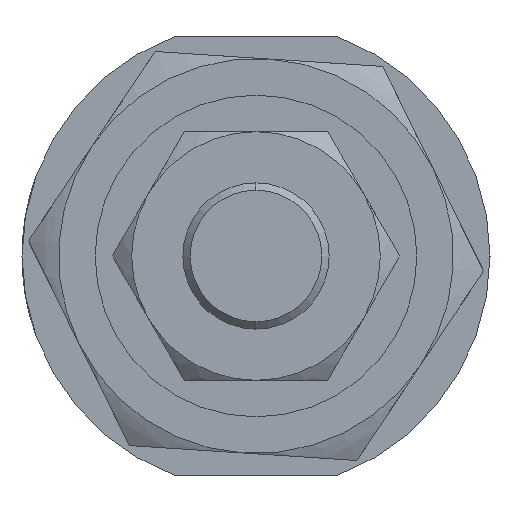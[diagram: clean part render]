
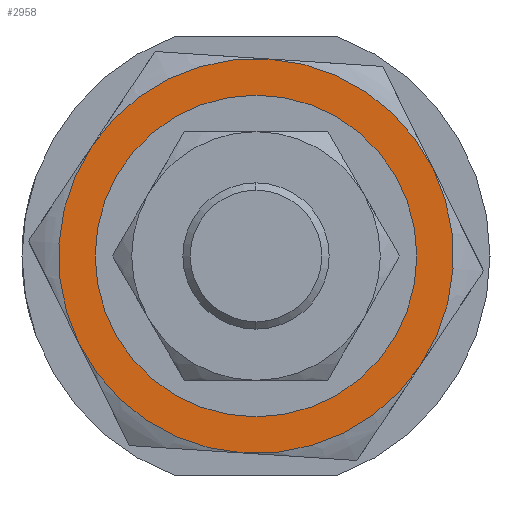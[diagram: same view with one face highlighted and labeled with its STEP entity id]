
A CAD part, left-side view. The second image highlights one B-rep face of the part: STEP entity #2958.
In plain terms, the highlighted planar face has unit normal (-1, 0, 0) as drawn and (0, 0, -1) by its records, which use the part's own axes.
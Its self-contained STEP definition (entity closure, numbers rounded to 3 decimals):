
#4 = ORIENTED_EDGE ( 'NONE', *, *, #958, .F. ) ;
#82 = DIRECTION ( 'NONE',  ( 0., 0., 1. ) ) ;
#94 = DIRECTION ( 'NONE',  ( 1., 0., 0. ) ) ;
#103 = DIRECTION ( 'NONE',  ( 1., 0., 0. ) ) ;
#150 = EDGE_CURVE ( 'NONE', #1253, #1528, #909, .T. ) ;
#248 = EDGE_CURVE ( 'NONE', #1444, #1003, #410, .T. ) ;
#297 = CARTESIAN_POINT ( 'NONE',  ( 0., 0., -5. ) ) ;
#349 = DIRECTION ( 'NONE',  ( 0., 0., 1. ) ) ;
#382 = VERTEX_POINT ( 'NONE', #1313 ) ;
#410 = CIRCLE ( 'NONE', #2214, 13.5 ) ;
#473 = VERTEX_POINT ( 'NONE', #1832 ) ;
#537 = CARTESIAN_POINT ( 'NONE',  ( 0., 0., -5. ) ) ;
#564 = AXIS2_PLACEMENT_3D ( 'NONE', #1484, #2414, #94 ) ;
#666 = ORIENTED_EDGE ( 'NONE', *, *, #2832, .F. ) ;
#751 = DIRECTION ( 'NONE',  ( 1., 0., 0. ) ) ;
#760 = DIRECTION ( 'NONE',  ( 1., 0., 0. ) ) ;
#798 = AXIS2_PLACEMENT_3D ( 'NONE', #2604, #2809, #751 ) ;
#866 = ORIENTED_EDGE ( 'NONE', *, *, #2842, .F. ) ;
#897 = AXIS2_PLACEMENT_3D ( 'NONE', #297, #82, #1006 ) ;
#909 = CIRCLE ( 'NONE', #798, 10. ) ;
#958 = EDGE_CURVE ( 'NONE', #2169, #2847, #1726, .T. ) ;
#1000 = CARTESIAN_POINT ( 'NONE',  ( 0., 0., -5. ) ) ;
#1003 = VERTEX_POINT ( 'NONE', #2172 ) ;
#1006 = DIRECTION ( 'NONE',  ( 1., 0., 0. ) ) ;
#1018 = EDGE_CURVE ( 'NONE', #1003, #382, #2227, .T. ) ;
#1046 = CARTESIAN_POINT ( 'NONE',  ( 0., 0., -5. ) ) ;
#1049 = PLANE ( 'NONE',  #1504 ) ;
#1143 = ORIENTED_EDGE ( 'NONE', *, *, #1018, .F. ) ;
#1159 = CIRCLE ( 'NONE', #1599, 13.5 ) ;
#1162 = ORIENTED_EDGE ( 'NONE', *, *, #1561, .T. ) ;
#1197 = AXIS2_PLACEMENT_3D ( 'NONE', #2313, #1350, #2977 ) ;
#1223 = EDGE_CURVE ( 'NONE', #473, #2169, #1950, .T. ) ;
#1234 = AXIS2_PLACEMENT_3D ( 'NONE', #1739, #2825, #1463 ) ;
#1253 = VERTEX_POINT ( 'NONE', #2954 ) ;
#1313 = CARTESIAN_POINT ( 'NONE',  ( 6.75, -11.691, -5. ) ) ;
#1327 = AXIS2_PLACEMENT_3D ( 'NONE', #1046, #2457, #2241 ) ;
#1350 = DIRECTION ( 'NONE',  ( 0., 0., 1. ) ) ;
#1421 = CIRCLE ( 'NONE', #1197, 10. ) ;
#1444 = VERTEX_POINT ( 'NONE', #1610 ) ;
#1459 = CARTESIAN_POINT ( 'NONE',  ( -6.75, 11.691, -5. ) ) ;
#1463 = DIRECTION ( 'NONE',  ( 1., 0., 0. ) ) ;
#1476 = EDGE_LOOP ( 'NONE', ( #2702, #666, #1143, #2452, #866, #4 ) ) ;
#1484 = CARTESIAN_POINT ( 'NONE',  ( 0., 0., -5. ) ) ;
#1504 = AXIS2_PLACEMENT_3D ( 'NONE', #2226, #349, #1533 ) ;
#1514 = EDGE_LOOP ( 'NONE', ( #1162, #2135 ) ) ;
#1528 = VERTEX_POINT ( 'NONE', #2879 ) ;
#1533 = DIRECTION ( 'NONE',  ( 1., 0., 0. ) ) ;
#1561 = EDGE_CURVE ( 'NONE', #1528, #1253, #1421, .T. ) ;
#1599 = AXIS2_PLACEMENT_3D ( 'NONE', #1000, #1966, #760 ) ;
#1610 = CARTESIAN_POINT ( 'NONE',  ( -13.5, 0., -5. ) ) ;
#1726 = CIRCLE ( 'NONE', #897, 13.5 ) ;
#1739 = CARTESIAN_POINT ( 'NONE',  ( 0., 0., -5. ) ) ;
#1743 = CARTESIAN_POINT ( 'NONE',  ( 6.75, 11.691, -5. ) ) ;
#1832 = CARTESIAN_POINT ( 'NONE',  ( 13.5, 0., -5. ) ) ;
#1950 = CIRCLE ( 'NONE', #1327, 13.5 ) ;
#1966 = DIRECTION ( 'NONE',  ( 0., 0., 1. ) ) ;
#2135 = ORIENTED_EDGE ( 'NONE', *, *, #150, .T. ) ;
#2169 = VERTEX_POINT ( 'NONE', #1743 ) ;
#2172 = CARTESIAN_POINT ( 'NONE',  ( -6.75, -11.691, -5. ) ) ;
#2214 = AXIS2_PLACEMENT_3D ( 'NONE', #537, #2399, #103 ) ;
#2226 = CARTESIAN_POINT ( 'NONE',  ( 0., 0., -5. ) ) ;
#2227 = CIRCLE ( 'NONE', #1234, 13.5 ) ;
#2241 = DIRECTION ( 'NONE',  ( 1., 0., 0. ) ) ;
#2313 = CARTESIAN_POINT ( 'NONE',  ( 0., 0., -5. ) ) ;
#2399 = DIRECTION ( 'NONE',  ( 0., 0., 1. ) ) ;
#2414 = DIRECTION ( 'NONE',  ( 0., 0., 1. ) ) ;
#2452 = ORIENTED_EDGE ( 'NONE', *, *, #248, .F. ) ;
#2457 = DIRECTION ( 'NONE',  ( 0., 0., 1. ) ) ;
#2462 = CIRCLE ( 'NONE', #564, 13.5 ) ;
#2604 = CARTESIAN_POINT ( 'NONE',  ( 0., 0., -5. ) ) ;
#2672 = FACE_BOUND ( 'NONE', #1514, .T. ) ;
#2702 = ORIENTED_EDGE ( 'NONE', *, *, #1223, .F. ) ;
#2809 = DIRECTION ( 'NONE',  ( 0., 0., 1. ) ) ;
#2825 = DIRECTION ( 'NONE',  ( 0., 0., 1. ) ) ;
#2832 = EDGE_CURVE ( 'NONE', #382, #473, #2462, .T. ) ;
#2842 = EDGE_CURVE ( 'NONE', #2847, #1444, #1159, .T. ) ;
#2847 = VERTEX_POINT ( 'NONE', #1459 ) ;
#2879 = CARTESIAN_POINT ( 'NONE',  ( 10., 0., -5. ) ) ;
#2919 = FACE_OUTER_BOUND ( 'NONE', #1476, .T. ) ;
#2954 = CARTESIAN_POINT ( 'NONE',  ( -10., 0., -5. ) ) ;
#2958 = ADVANCED_FACE ( 'NONE', ( #2672, #2919 ), #1049, .F. ) ;
#2977 = DIRECTION ( 'NONE',  ( 1., 0., 0. ) ) ;
